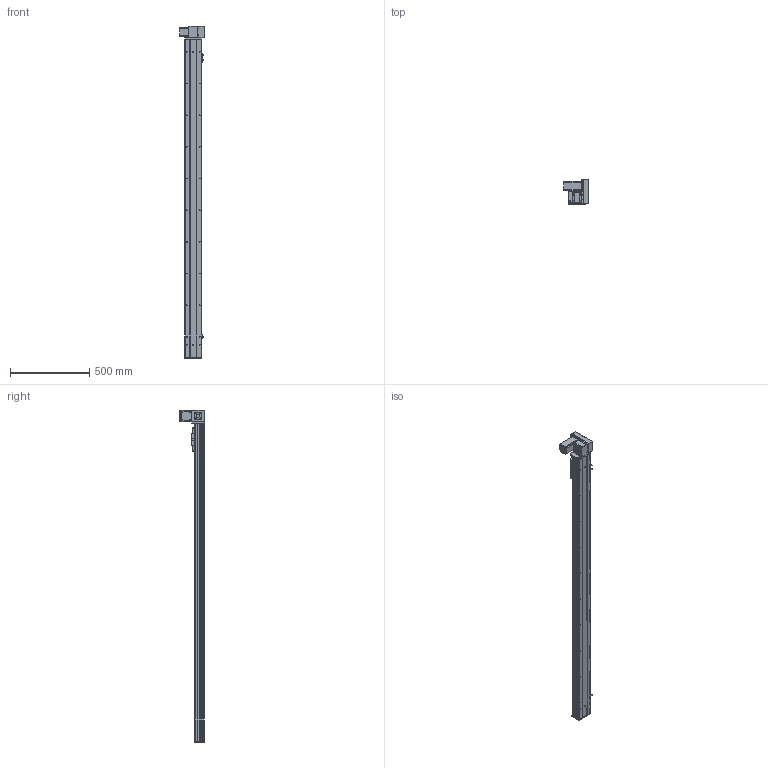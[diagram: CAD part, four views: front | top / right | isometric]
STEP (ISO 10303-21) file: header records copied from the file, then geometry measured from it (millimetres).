
FILE_DESCRIPTION (( 'STEP AP203' ), '1' );
FILE_NAME ('Y10CB-D90-S1750-UR-P400W.STEP', '2020-02-16T03:55:57', ( '微软用户' ), ( '微软中国' ), 'SwSTEP 2.0', 'SolidWorks 2017', '' );
FILE_SCHEMA (( 'CONFIG_CONTROL_DESIGN' ));
Length unit declared in the file: millimetre
Products named in the file (18): Y10B-耜蚾蟀諉啣----; Y10CB- 掛极耜裔啣-毀---; 0CB-雄赽釱---; 00B-俋欶BM--; Y10C---詩湍揤啣; 0Cb-俋欶---; Y10CB-D90-S1750-UR-P400W; 10CB9-掛极; Y10B-々湍喘謫眊楊擘啣--; 0B-萇儂楊擘啣; san松下电机400不带刹车----; 10CB-耜裔; Y135C-陔俋离換覜結え-; 0B-源倛裔啣; Y100-135俋离換覜ん--; 0B-埴倛裔啣; Y10B--々湍喘謫眊--666; 10CB-詩湍-
Assembly tree (21 placements, depth 2):
  Y10CB-D90-S1750-UR-P400W
    0CB-雄赽釱---
    0Cb-俋欶---
    Y10B-々湍喘謫眊楊擘啣--
    0B-萇儂楊擘啣
    san松下电机400不带刹车----
    0B-源倛裔啣
    0B-埴倛裔啣
    10CB-詩湍-
    Y10CB- 掛极耜裔啣-毀---  x2
    Y10C---詩湍揤啣  x2
    10CB9-掛极
    10CB-耜裔
    Y135C-陔俋离換覜結え-
    Y100-135俋离換覜ん--  x3
    Y10B--々湍喘謫眊--666
    Y10B-耜蚾蟀諉啣----
    00B-俋欶BM--
Bounding box: 157 x 155.5 x 2096 mm (x, y, z)
Volume: 4444506.2 mm3; surface area: 2071915.1 mm2
Topology: 21 solids, 21 shells, 1038 faces, 2803 edges, 1826 vertices
Faces by surface type: cylinder 529, plane 485, cone 24
Entity records: 32912 total; most frequent: CARTESIAN_POINT 6061, DIRECTION 5270, ORIENTED_EDGE 5076, EDGE_CURVE 2538, AXIS2_PLACEMENT_3D 1885, VERTEX_POINT 1652, LINE 1500, VECTOR 1500
